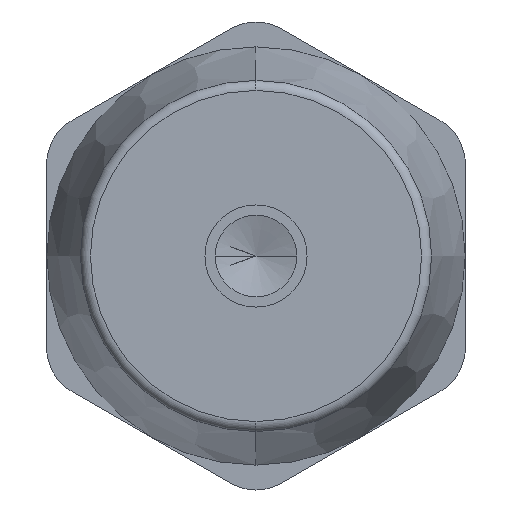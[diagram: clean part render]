
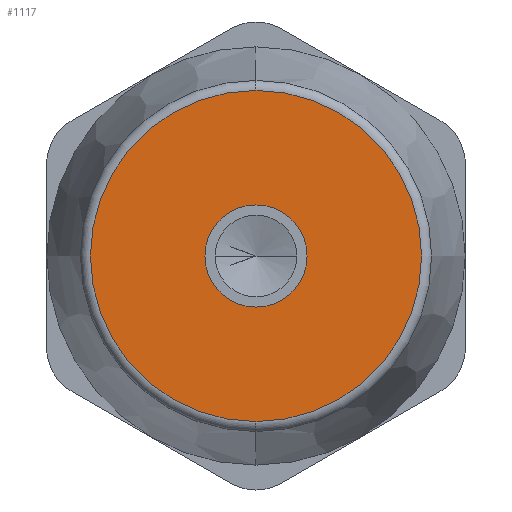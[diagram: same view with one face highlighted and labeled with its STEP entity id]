
A CAD part, front view. The second image highlights one B-rep face of the part: STEP entity #1117.
In plain terms, the highlighted planar face has unit normal (0, -1, 0).
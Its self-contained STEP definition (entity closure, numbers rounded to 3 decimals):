
#79 = DIRECTION ( 'NONE',  ( 0., -1., 0. ) ) ;
#88 = AXIS2_PLACEMENT_3D ( 'NONE', #1210, #1847, #413 ) ;
#176 = AXIS2_PLACEMENT_3D ( 'NONE', #634, #420, #1062 ) ;
#217 = EDGE_CURVE ( 'NONE', #1296, #903, #271, .T. ) ;
#242 = ORIENTED_EDGE ( 'NONE', *, *, #1919, .T. ) ;
#271 = CIRCLE ( 'NONE', #1076, 16.205 ) ;
#288 = CIRCLE ( 'NONE', #1256, 5. ) ;
#369 = VERTEX_POINT ( 'NONE', #1096 ) ;
#413 = DIRECTION ( 'NONE',  ( -1., 0., 0. ) ) ;
#420 = DIRECTION ( 'NONE',  ( 0., 1., 0. ) ) ;
#634 = CARTESIAN_POINT ( 'NONE',  ( 20.5, 0., -11.836 ) ) ;
#636 = ORIENTED_EDGE ( 'NONE', *, *, #646, .T. ) ;
#646 = EDGE_CURVE ( 'NONE', #903, #1296, #1533, .T. ) ;
#651 = EDGE_CURVE ( 'NONE', #1517, #369, #1804, .T. ) ;
#766 = CARTESIAN_POINT ( 'NONE',  ( -5., 0., 0. ) ) ;
#886 = DIRECTION ( 'NONE',  ( 0., -1., 0. ) ) ;
#902 = DIRECTION ( 'NONE',  ( 0., 0., 1. ) ) ;
#903 = VERTEX_POINT ( 'NONE', #1603 ) ;
#1046 = EDGE_LOOP ( 'NONE', ( #1450, #242 ) ) ;
#1062 = DIRECTION ( 'NONE',  ( 0., 0., 1. ) ) ;
#1070 = AXIS2_PLACEMENT_3D ( 'NONE', #1199, #886, #1515 ) ;
#1076 = AXIS2_PLACEMENT_3D ( 'NONE', #1730, #79, #902 ) ;
#1096 = CARTESIAN_POINT ( 'NONE',  ( 5., 0., 0. ) ) ;
#1117 = ADVANCED_FACE ( 'NONE', ( #1257, #1402 ), #2071, .F. ) ;
#1199 = CARTESIAN_POINT ( 'NONE',  ( 0., 0., 0. ) ) ;
#1210 = CARTESIAN_POINT ( 'NONE',  ( 0., 0., 0. ) ) ;
#1240 = DIRECTION ( 'NONE',  ( -1., 0., 0. ) ) ;
#1256 = AXIS2_PLACEMENT_3D ( 'NONE', #2038, #1259, #1240 ) ;
#1257 = FACE_BOUND ( 'NONE', #1046, .T. ) ;
#1259 = DIRECTION ( 'NONE',  ( 0., 1., 0. ) ) ;
#1276 = ORIENTED_EDGE ( 'NONE', *, *, #217, .T. ) ;
#1296 = VERTEX_POINT ( 'NONE', #1713 ) ;
#1402 = FACE_OUTER_BOUND ( 'NONE', #1931, .T. ) ;
#1450 = ORIENTED_EDGE ( 'NONE', *, *, #651, .T. ) ;
#1515 = DIRECTION ( 'NONE',  ( 0., 0., 1. ) ) ;
#1517 = VERTEX_POINT ( 'NONE', #766 ) ;
#1533 = CIRCLE ( 'NONE', #1070, 16.205 ) ;
#1603 = CARTESIAN_POINT ( 'NONE',  ( 0., 0., -16.205 ) ) ;
#1713 = CARTESIAN_POINT ( 'NONE',  ( 0., 0., 16.205 ) ) ;
#1730 = CARTESIAN_POINT ( 'NONE',  ( 0., 0., 0. ) ) ;
#1804 = CIRCLE ( 'NONE', #88, 5. ) ;
#1847 = DIRECTION ( 'NONE',  ( 0., 1., 0. ) ) ;
#1919 = EDGE_CURVE ( 'NONE', #369, #1517, #288, .T. ) ;
#1931 = EDGE_LOOP ( 'NONE', ( #1276, #636 ) ) ;
#2038 = CARTESIAN_POINT ( 'NONE',  ( 0., 0., 0. ) ) ;
#2071 = PLANE ( 'NONE',  #176 ) ;
